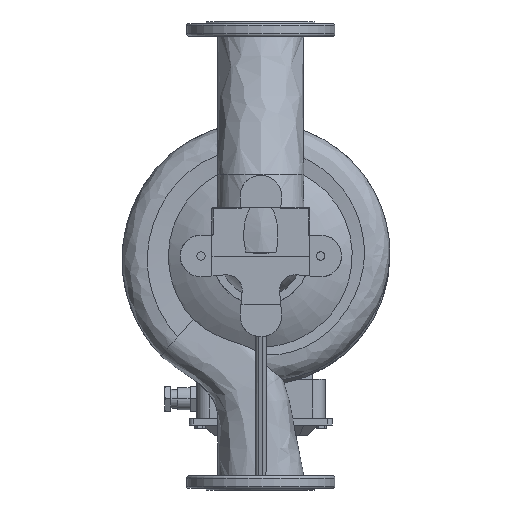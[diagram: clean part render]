
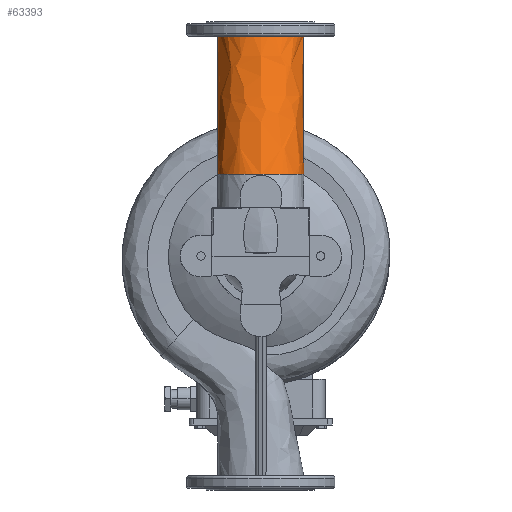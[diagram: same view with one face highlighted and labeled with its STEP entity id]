
A CAD part, front view. The second image highlights one B-rep face of the part: STEP entity #63393.
In plain terms, the highlighted free-form (B-spline) face has degree [3, 1] with [4, 2] control points.
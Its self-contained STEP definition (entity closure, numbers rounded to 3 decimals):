
#108 = CARTESIAN_POINT ( 'NONE',  ( 82.5, 0., 423. ) ) ;
#524 = LINE ( 'NONE', #43174, #45899 ) ;
#1853 = ORIENTED_EDGE ( 'NONE', *, *, #6771, .F. ) ;
#2837 = CARTESIAN_POINT ( 'NONE',  ( -82.5, -124.083, 156.902 ) ) ;
#2853 = CARTESIAN_POINT ( 'NONE',  ( 0., -124.083, 156.902 ) ) ;
#5654 = EDGE_CURVE ( 'NONE', #63384, #75910, #26972, .T. ) ;
#6771 = EDGE_CURVE ( 'NONE', #67209, #29282, #27065, .T. ) ;
#7486 = CARTESIAN_POINT ( 'NONE',  ( -82.5, -124.083, 156.902 ) ) ;
#8515 = CARTESIAN_POINT ( 'NONE',  ( 82.5, -124.083, 156.902 ) ) ;
#8867 = EDGE_CURVE ( 'NONE', #51488, #12563, #29530, .T. ) ;
#8885 = DIRECTION ( 'NONE',  ( -1., 0., 0. ) ) ;
#11083 = EDGE_CURVE ( 'NONE', #75910, #12563, #60389, .T. ) ;
#12105 = ORIENTED_EDGE ( 'NONE', *, *, #8867, .F. ) ;
#12563 = VERTEX_POINT ( 'NONE', #59491 ) ;
#15396 = EDGE_CURVE ( 'NONE', #29282, #51488, #524, .T. ) ;
#17437 = DIRECTION ( 'NONE',  ( 0., 0.423, 0.906 ) ) ;
#18079 = AXIS2_PLACEMENT_3D ( 'NONE', #2853, #77602, #8885 ) ;
#18383 = CARTESIAN_POINT ( 'NONE',  ( -82.5, 0., 423. ) ) ;
#19543 = CARTESIAN_POINT ( 'NONE',  ( 82.5, -289.083, 156.902 ) ) ;
#20975 = DIRECTION ( 'NONE',  ( 0., 0., -1. ) ) ;
#24722 = CARTESIAN_POINT ( 'NONE',  ( -82.5, -107.873, 191.667 ) ) ;
#25608 = CARTESIAN_POINT ( 'NONE',  ( 82.5, -124.083, 156.902 ) ) ;
#26972 = B_SPLINE_CURVE_WITH_KNOTS ( 'NONE', 1,
 ( #54012, #108 ),
 .UNSPECIFIED., .F., .F.,
 ( 2, 2 ),
 ( 0.131, 1. ),
 .UNSPECIFIED. ) ;
#27065 = CIRCLE ( 'NONE', #18079, 82.5 ) ;
#29282 = VERTEX_POINT ( 'NONE', #2837 ) ;
#29530 = B_SPLINE_CURVE_WITH_KNOTS ( 'NONE', 1,
 ( #69638, #39911 ),
 .UNSPECIFIED., .F., .F.,
 ( 2, 2 ),
 ( 0.131, 1. ),
 .UNSPECIFIED. ) ;
#32457 = VECTOR ( 'NONE', #43824, 1000. ) ;
#33832 = ORIENTED_EDGE ( 'NONE', *, *, #57266, .T. ) ;
#38026 = CARTESIAN_POINT ( 'NONE',  ( 82.5, 0., 423. ) ) ;
#39842 = AXIS2_PLACEMENT_3D ( 'NONE', #44336, #20975, #75242 ) ;
#39911 = CARTESIAN_POINT ( 'NONE',  ( -82.5, 0., 423. ) ) ;
#42939 = FACE_OUTER_BOUND ( 'NONE', #71304, .T. ) ;
#43043 = CARTESIAN_POINT ( 'NONE',  ( 82.5, -62.042, 289.951 ) ) ;
#43174 = CARTESIAN_POINT ( 'NONE',  ( -82.5, -62.042, 289.951 ) ) ;
#43824 = DIRECTION ( 'NONE',  ( 0., 0.423, 0.906 ) ) ;
#44336 = CARTESIAN_POINT ( 'NONE',  ( 0., 0., 423. ) ) ;
#44954 = ORIENTED_EDGE ( 'NONE', *, *, #5654, .T. ) ;
#45899 = VECTOR ( 'NONE', #17437, 1000. ) ;
#48976 = CARTESIAN_POINT ( 'NONE',  ( 82.5, -165., 423. ) ) ;
#49848 = LINE ( 'NONE', #43043, #32457 ) ;
#51488 = VERTEX_POINT ( 'NONE', #24722 ) ;
#54012 = CARTESIAN_POINT ( 'NONE',  ( 82.5, -107.873, 191.667 ) ) ;
#55000 = CARTESIAN_POINT ( 'NONE',  ( 82.5, 0., 423. ) ) ;
#57266 = EDGE_CURVE ( 'NONE', #67209, #63384, #49848, .T. ) ;
#59491 = CARTESIAN_POINT ( 'NONE',  ( -82.5, 0., 423. ) ) ;
#60389 = CIRCLE ( 'NONE', #39842, 82.5 ) ;
#62558 = CARTESIAN_POINT ( 'NONE',  ( -82.5, -165., 423. ) ) ;
#63384 = VERTEX_POINT ( 'NONE', #68988 ) ;
#63393 = ADVANCED_FACE ( 'NONE', ( #42939 ), #74027, .F. ) ;
#67096 = ORIENTED_EDGE ( 'NONE', *, *, #15396, .F. ) ;
#67209 = VERTEX_POINT ( 'NONE', #8515 ) ;
#68988 = CARTESIAN_POINT ( 'NONE',  ( 82.5, -107.873, 191.667 ) ) ;
#69638 = CARTESIAN_POINT ( 'NONE',  ( -82.5, -107.873, 191.667 ) ) ;
#71304 = EDGE_LOOP ( 'NONE', ( #33832, #44954, #77160, #12105, #67096, #1853 ) ) ;
#73444 = CARTESIAN_POINT ( 'NONE',  ( -82.5, -289.083, 156.902 ) ) ;
#74027 =( BOUNDED_SURFACE ( )  B_SPLINE_SURFACE ( 3, 1, ( 
 ( #25608, #55000 ),
 ( #19543, #48976 ),
 ( #73444, #62558 ),
 ( #7486, #18383 ) ),
 .UNSPECIFIED., .F., .F., .T. ) 
 B_SPLINE_SURFACE_WITH_KNOTS ( ( 4, 4 ),
 ( 2, 2 ),
 ( 0.5, 1. ),
 ( 0., 1. ),
 .UNSPECIFIED. ) 
 GEOMETRIC_REPRESENTATION_ITEM ( )  RATIONAL_B_SPLINE_SURFACE ( (
 ( 1., 1.),
 ( 0.333, 0.333),
 ( 0.333, 0.333),
 ( 1., 1.) ) ) 
 REPRESENTATION_ITEM ( '' )  SURFACE ( )  );
#75242 = DIRECTION ( 'NONE',  ( -1., 0., 0. ) ) ;
#75910 = VERTEX_POINT ( 'NONE', #38026 ) ;
#77160 = ORIENTED_EDGE ( 'NONE', *, *, #11083, .T. ) ;
#77602 = DIRECTION ( 'NONE',  ( 0., 0., -1. ) ) ;
